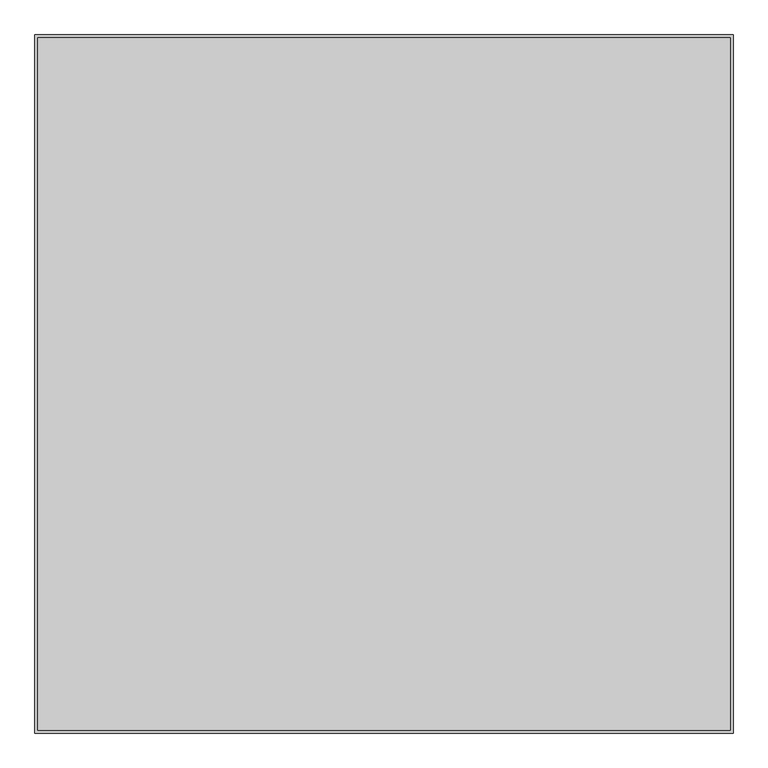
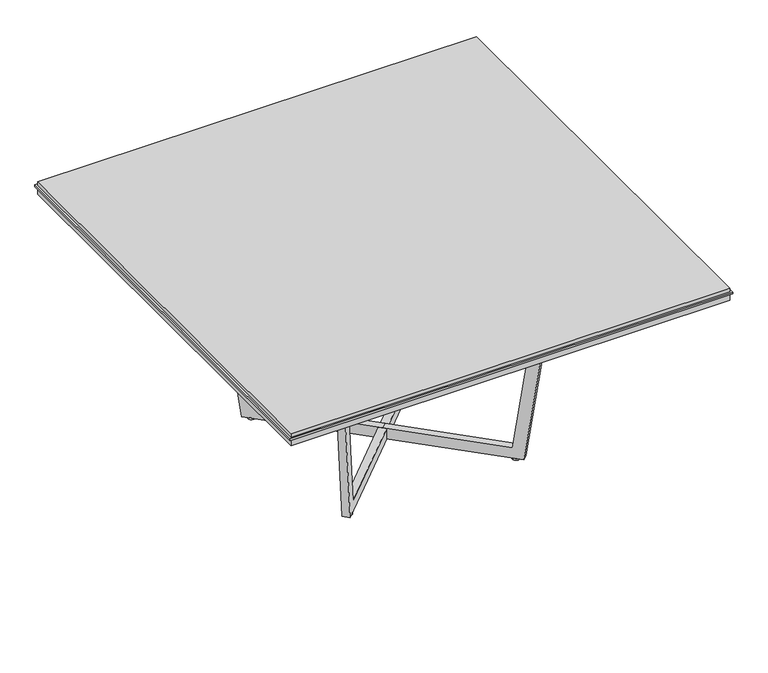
"""IFC4 building model written with IfcOpenShell, lengths in millimetres: furniture geometry, Knoll_Datesweiser_Tables_Meeting_Highline_Square : 60W Corian Open."""

from ifc_helpers import new_model, si_unit, point, frame, frame_2d, origin, origin_with_axes, place, context, project, spatial, polyline, circle_curve, trimmed, segment, composite_curve, outline, extrude, source, transform, mapped, element, save


def furniture_027da457(model_context):
    return source(origin(), model_context, "Body", "SweptSolid", [
        extrude(outline(polyline([(762.0, 762.0), (762.0, -762.0), (-762.0, -762.0), (-762.0, 762.0), (762.0, 762.0)])), frame((0.0, 0.0, 698.5), z_axis=(0.0, 0.0, 1.0), x_axis=(1.0, 0.0, 0.0)), (0.0, 0.0, 1.0), 25.4),
        extrude(outline(polyline([(762.0, 762.0), (762.0, -762.0), (-762.0, -762.0), (-762.0, 762.0), (762.0, 762.0)])), frame((0.0, 0.0, 730.25), z_axis=(0.0, 0.0, 1.0), x_axis=(1.0, 0.0, 0.0)), (0.0, 0.0, 1.0), 12.7),
        extrude(outline(polyline([(768.35, 768.35), (768.35, -768.35), (-768.35, -768.35), (-768.35, 768.35), (768.35, 768.35)])), frame((0.0, 0.0, 723.9), z_axis=(0.0, 0.0, 1.0), x_axis=(1.0, 0.0, 0.0)), (0.0, 0.0, 1.0), 6.35),
        extrude(outline(composite_curve([segment(trimmed(circle_curve(frame_2d((-291.4942533, -291.4942533)), 12.7), [point((-278.7942533, -291.4942533))], [point((-304.1942533, -291.4942533))], False, "CARTESIAN"), True, "CONTINUOUS"), segment(trimmed(circle_curve(frame_2d((-291.4942533, -291.4942533)), 12.7), [point((-304.1942533, -291.4942533))], [point((-278.7942533, -291.4942533))], False, "CARTESIAN"), True, "CONTINUOUS")], self_intersect=False)), origin_with_axes(), (0.0, 0.0, 1.0), 5.9867797),
        extrude(outline(composite_curve([segment(trimmed(circle_curve(frame_2d((-291.4942533, 291.4942533)), 12.7), [point((-278.7942533, 291.4942533))], [point((-304.1942533, 291.4942533))], False, "CARTESIAN"), True, "CONTINUOUS"), segment(trimmed(circle_curve(frame_2d((-291.4942533, 291.4942533)), 12.7), [point((-304.1942533, 291.4942533))], [point((-278.7942533, 291.4942533))], False, "CARTESIAN"), True, "CONTINUOUS")], self_intersect=False)), origin_with_axes(), (0.0, 0.0, 1.0), 5.9867797),
        extrude(outline(composite_curve([segment(trimmed(circle_curve(frame_2d((291.4942533, -291.4942533)), 12.7), [point((304.1942533, -291.4942533))], [point((278.7942533, -291.4942533))], False, "CARTESIAN"), True, "CONTINUOUS"), segment(trimmed(circle_curve(frame_2d((291.4942533, -291.4942533)), 12.7), [point((278.7942533, -291.4942533))], [point((304.1942533, -291.4942533))], False, "CARTESIAN"), True, "CONTINUOUS")], self_intersect=False)), origin_with_axes(), (0.0, 0.0, 1.0), 5.9867797),
        extrude(outline(composite_curve([segment(trimmed(circle_curve(frame_2d((291.4942533, 291.4942533)), 12.7), [point((304.1942533, 291.4942533))], [point((278.7942533, 291.4942533))], False, "CARTESIAN"), True, "CONTINUOUS"), segment(trimmed(circle_curve(frame_2d((291.4942533, 291.4942533)), 12.7), [point((278.7942533, 291.4942533))], [point((304.1942533, 291.4942533))], False, "CARTESIAN"), True, "CONTINUOUS")], self_intersect=False)), origin_with_axes(), (0.0, 0.0, 1.0), 5.9867797),
        extrude(outline(polyline([(-439.4001671, 0.0), (0.0, 0.0), (96.4493631, -692.7824981), (56.1900883, -692.7303535), (-34.9340039, -38.198535), (-439.448964, -37.6745992), (-843.9639241, -37.1506634), (-936.7832328, -691.4442349), (-977.0425076, -691.3920902), (-878.7988599, 1.1382376), (-439.4001671, 0.0)])), frame((301.7223211, -319.6828333, 5.8430302), z_axis=(0.7071067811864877, 0.7071067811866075, 0.0), x_axis=(0.7071061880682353, -0.7071061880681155, -0.001295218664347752)), (0.0, 0.0, 1.0), 25.4),
        extrude(outline(polyline([(439.4001671, 0.0), (878.7988599, 1.1382376), (977.0425076, -691.3920902), (936.7832328, -691.4442349), (843.9639241, -37.1506634), (439.448964, -37.6745992), (34.9340039, -38.198535), (-56.1900883, -692.7303535), (-96.4493631, -692.7824981), (0.0, 0.0), (439.4001671, 0.0)])), frame((-301.7223211, -319.6828333, 5.8430302), z_axis=(-0.707106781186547, 0.7071067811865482, 0.0), x_axis=(0.7071061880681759, 0.7071061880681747, 0.0012952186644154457)), (0.0, 0.0, 1.0), 25.4),
    ])


if __name__ == "__main__":
    model = new_model("IFC4")
    model_context = context("Model", 3, world=origin())
    ifc_project = project(units=[si_unit("LENGTHUNIT", "METRE", prefix="MILLI")], contexts=[model_context])
    site = spatial("IfcSite", under=ifc_project)
    building = spatial("IfcBuilding", under=site)
    placement = place(None, origin())
    furniture_shape = furniture_027da457(model_context)
    element("IfcFurniture", 1, ObjectType="Knoll_Datesweiser_Tables_Meeting_Highline_Square : 60W Corian Open", at=placement, inside=building, context=model_context, shape_type="MappedRepresentation", body=[
        mapped(furniture_shape, transform((0.0, 0.0, 0.0), x_axis=(1.0, 0.0, 0.0), y_axis=(0.0, 1.0, 0.0), z_axis=(0.0, 0.0, 1.0))),
    ])
    save(model, "model.ifc")
